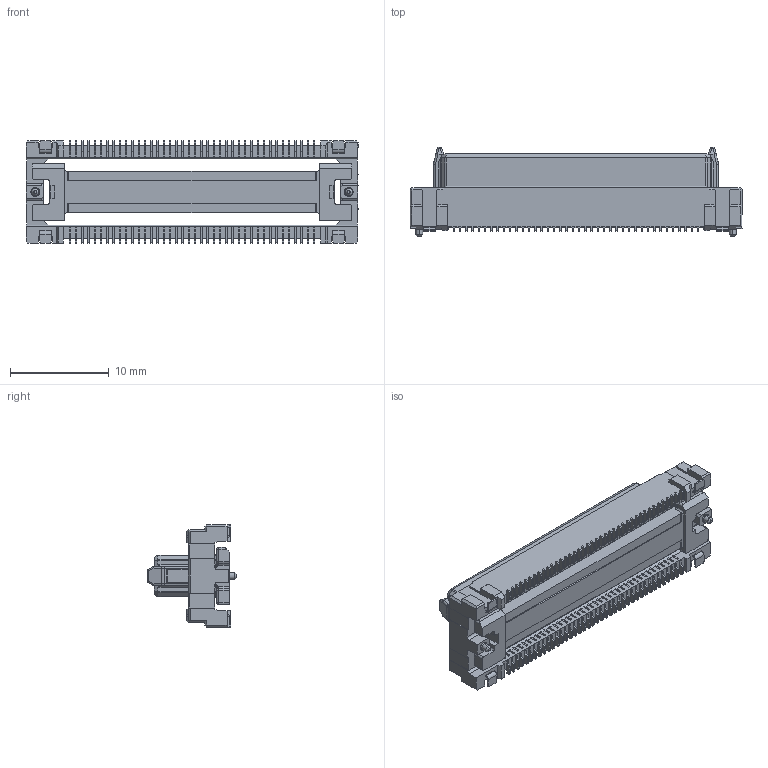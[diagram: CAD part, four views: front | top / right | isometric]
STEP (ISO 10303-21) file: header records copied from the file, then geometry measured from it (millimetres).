
FILE_DESCRIPTION (( 'STEP AP203' ), '1' );
FILE_NAME ('10109S-80C.STEP', '2026-02-17T01:29:56', ( '' ), ( '' ), 'SwSTEP 2.0', 'SolidWorks 2024', '' );
FILE_SCHEMA (( 'CONFIG_CONTROL_DESIGN' ));
Products named in the file (1): 10109S-80C
Bounding box: 33.66 x 9.1 x 10.35 mm (x, y, z)
Volume: 1120.6 mm3; surface area: 2131.4 mm2
Topology: 2 solids, 4 shells, 4940 faces, 12976 edges, 8200 vertices
Faces by surface type: plane 2407, cylinder 1352, torus 961, bspline 192, sphere 24, cone 4
Entity records: 157853 total; most frequent: CARTESIAN_POINT 36933, ORIENTED_EDGE 25920, DIRECTION 24826, EDGE_CURVE 12960, AXIS2_PLACEMENT_3D 8571, VERTEX_POINT 8200, VECTOR 7684, LINE 7684
